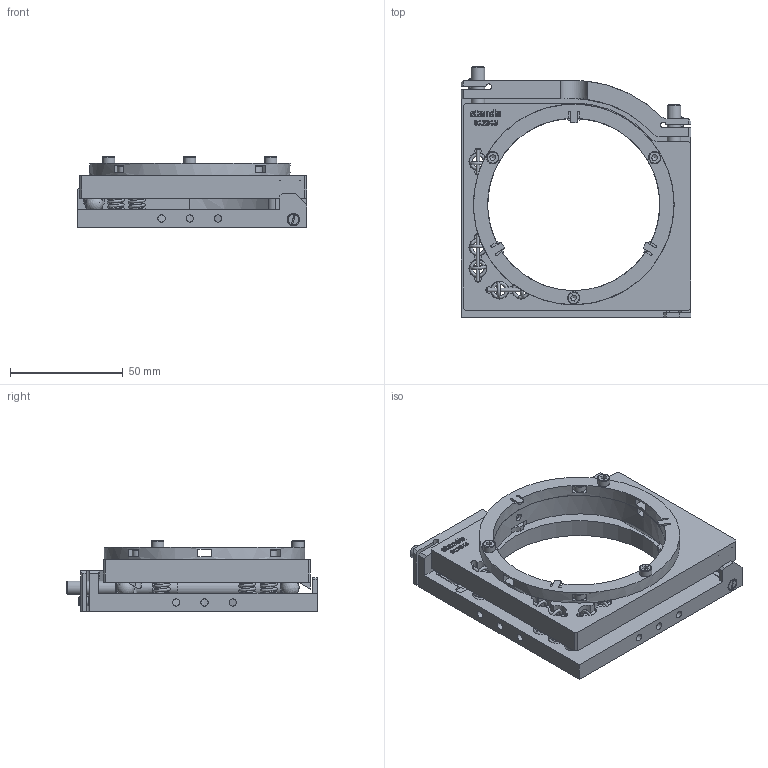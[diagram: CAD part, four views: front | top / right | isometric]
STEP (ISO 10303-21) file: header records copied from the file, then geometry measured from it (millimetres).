
FILE_DESCRIPTION(/* description */ (''),/* implementation_level */ '2;1');
FILE_NAME(/* name */ 'U:\KONSTRUKTORIAI\DOKUMENTACIJA\5\5VDOM-3\step\5KVDOM-3-05.stp',/* time_stamp */ '2017-05-26T13:33:42+03:00',/* author */ ('dsgn33'),/* organization */ (''),/* preprocessor_version */ 'ST-DEVELOPER v15.2',/* originating_system */ 'Autodesk Inventor 2014',/* authorisation */ '');
FILE_SCHEMA (('AUTOMOTIVE_DESIGN { 1 0 10303 214 3 1 1 }'));
Length unit declared in the file: millimetre
Products named in the file (2): Part5; Assembly2
Bounding box: 102 x 111.08 x 31.5 mm (x, y, z)
Volume: 92946.2 mm3; surface area: 48379.5 mm2
Topology: 4 solids, 25 shells, 886 faces, 2391 edges, 1545 vertices
Faces by surface type: plane 480, cylinder 171, bspline 139, cone 60, torus 26, sphere 10
Full cylindrical faces by diameter (mm): 1.2 x10, 1.5 x7, 2 x2, 2.013 x1, 2.459 x7, 2.5 x2, 2.9 x1, 3 x7, 3.1 x2, 3.242 x7, 3.5 x7, 4 x4, 4.76 x2, 5.5 x7, 6 x8, 8 x10, 76.5 x1, 80 x1, 89 x1
Entity records: 38514 total; most frequent: CARTESIAN_POINT 18234, ORIENTED_EDGE 4248, DIRECTION 3783, EDGE_CURVE 2098, VERTEX_POINT 1441, AXIS2_PLACEMENT_3D 1303, EDGE_LOOP 1193, LINE 1177
